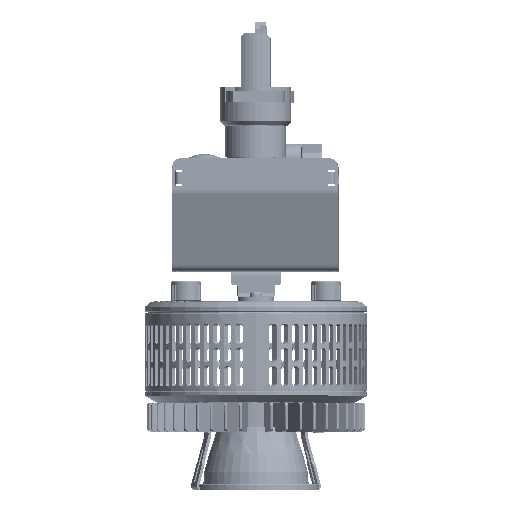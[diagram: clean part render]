
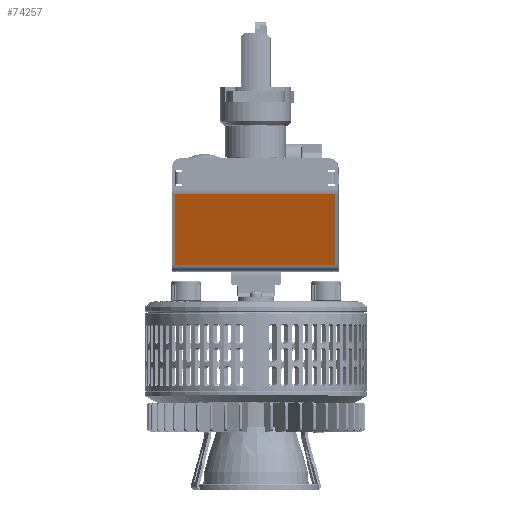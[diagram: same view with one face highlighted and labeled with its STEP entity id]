
A CAD part, top view. The second image highlights one B-rep face of the part: STEP entity #74257.
In plain terms, the highlighted planar face has unit normal (-0.002, -0.342, 0.94).
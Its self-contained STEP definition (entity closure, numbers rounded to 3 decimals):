
#18061 = DIRECTION ( 'NONE',  ( 0., 0.342, -0.94 ) ) ;
#18307 = VECTOR ( 'NONE', #103979, 1000. ) ;
#28310 = VERTEX_POINT ( 'NONE', #185045 ) ;
#28760 = CARTESIAN_POINT ( 'NONE',  ( 39.5, 11.487, 101.735 ) ) ;
#34656 = EDGE_CURVE ( 'NONE', #78718, #127067, #73954, .T. ) ;
#40429 = CARTESIAN_POINT ( 'NONE',  ( -39.5, 11.487, 101.735 ) ) ;
#45450 = CARTESIAN_POINT ( 'NONE',  ( -39.5, 10.659, 101.434 ) ) ;
#49272 = PLANE ( 'NONE',  #193007 ) ;
#54736 = ORIENTED_EDGE ( 'NONE', *, *, #34656, .F. ) ;
#55966 = LINE ( 'NONE', #40429, #18307 ) ;
#73954 = LINE ( 'NONE', #199177, #81439 ) ;
#74257 = ADVANCED_FACE ( 'NONE', ( #161841 ), #49272, .F. ) ;
#78718 = VERTEX_POINT ( 'NONE', #194618 ) ;
#80322 = CARTESIAN_POINT ( 'NONE',  ( 39.5, 10.659, 101.434 ) ) ;
#81439 = VECTOR ( 'NONE', #136485, 1000. ) ;
#86149 = EDGE_CURVE ( 'NONE', #28310, #156717, #111595, .T. ) ;
#98131 = ORIENTED_EDGE ( 'NONE', *, *, #166790, .T. ) ;
#103979 = DIRECTION ( 'NONE',  ( 0., -0.94, -0.342 ) ) ;
#111131 = CARTESIAN_POINT ( 'NONE',  ( 39.5, 11.487, 101.735 ) ) ;
#111595 = LINE ( 'NONE', #80322, #173672 ) ;
#124719 = LINE ( 'NONE', #111131, #182112 ) ;
#127067 = VERTEX_POINT ( 'NONE', #172125 ) ;
#129784 = ORIENTED_EDGE ( 'NONE', *, *, #86149, .T. ) ;
#135672 = ORIENTED_EDGE ( 'NONE', *, *, #150281, .F. ) ;
#136485 = DIRECTION ( 'NONE',  ( -1., 0., 0. ) ) ;
#143950 = DIRECTION ( 'NONE',  ( -1., 0., 0. ) ) ;
#150281 = EDGE_CURVE ( 'NONE', #28310, #78718, #124719, .T. ) ;
#156717 = VERTEX_POINT ( 'NONE', #45450 ) ;
#160810 = DIRECTION ( 'NONE',  ( 0., 0.94, 0.342 ) ) ;
#161841 = FACE_OUTER_BOUND ( 'NONE', #170237, .T. ) ;
#166790 = EDGE_CURVE ( 'NONE', #156717, #127067, #55966, .T. ) ;
#170237 = EDGE_LOOP ( 'NONE', ( #98131, #54736, #135672, #129784 ) ) ;
#172125 = CARTESIAN_POINT ( 'NONE',  ( -39.5, -24.539, 88.623 ) ) ;
#173672 = VECTOR ( 'NONE', #143950, 1000. ) ;
#182112 = VECTOR ( 'NONE', #188372, 1000. ) ;
#185045 = CARTESIAN_POINT ( 'NONE',  ( 39.5, 10.659, 101.434 ) ) ;
#188372 = DIRECTION ( 'NONE',  ( 0., -0.94, -0.342 ) ) ;
#193007 = AXIS2_PLACEMENT_3D ( 'NONE', #28760, #18061, #160810 ) ;
#194618 = CARTESIAN_POINT ( 'NONE',  ( 39.5, -24.539, 88.623 ) ) ;
#199177 = CARTESIAN_POINT ( 'NONE',  ( 39.5, -24.539, 88.623 ) ) ;
